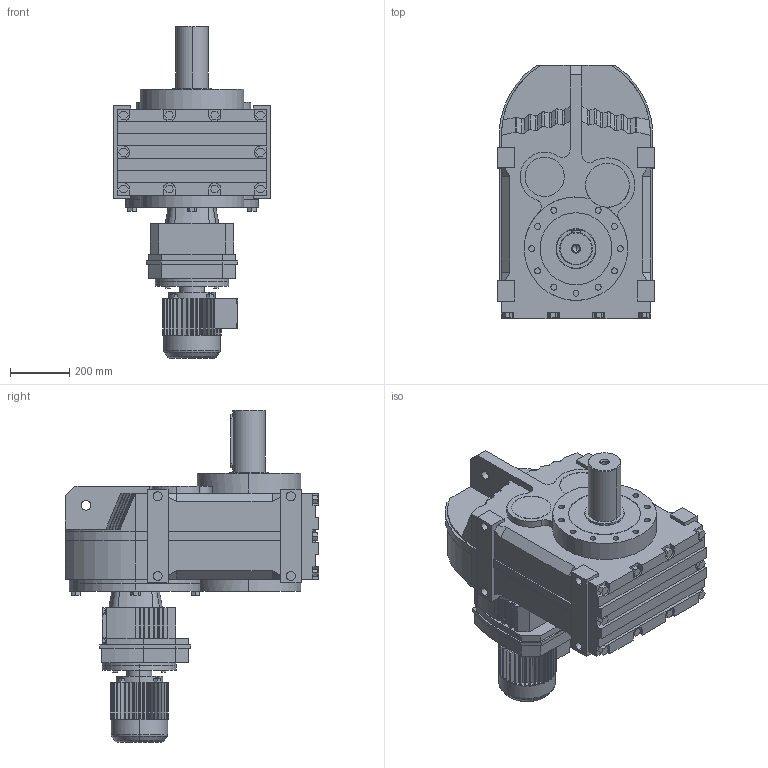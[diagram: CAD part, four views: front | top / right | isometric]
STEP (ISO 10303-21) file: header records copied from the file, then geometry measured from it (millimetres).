
FILE_DESCRIPTION(('Open CASCADE Model'),'2;1');
FILE_NAME('Open CASCADE Shape Model','2021-07-24T10:31:14',('Author'),( 'Open CASCADE'),'Open CASCADE STEP processor 6.3','Open CASCADE 6.3' ,'Unknown');
FILE_SCHEMA(('AUTOMOTIVE_DESIGN_CC2 { 1 2 10303 214 -1 1 5 4 }'));
Length unit declared in the file: millimetre
Products named in the file (5): 1_F127R87DT90; FAZ27‵157_127.step; 萇儂_250-DT90-257-342-197-154.step; R_127_87.step; す瑩妗陑粣F_127.step
Assembly tree (4 placements, depth 2):
  1_F127R87DT90
    FAZ27‵157_127.step
    萇儂_250-DT90-257-342-197-154.step
    R_127_87.step
    す瑩妗陑粣F_127.step
Bounding box: 530 x 856 x 1122 mm (x, y, z)
Volume: 154794650.5 mm3; surface area: 3504106.4 mm2
Topology: 4 solids, 4 shells, 1028 faces, 2720 edges, 1778 vertices
Faces by surface type: plane 756, cylinder 236, bspline 16, cone 16, torus 4
Entity records: 69387 total; most frequent: CARTESIAN_POINT 16805, DIRECTION 9268, LINE 5491, VECTOR 5491, ORIENTED_EDGE 5436, PCURVE 5436, DEFINITIONAL_REPRESENTATION 5436, EDGE_CURVE 2718
